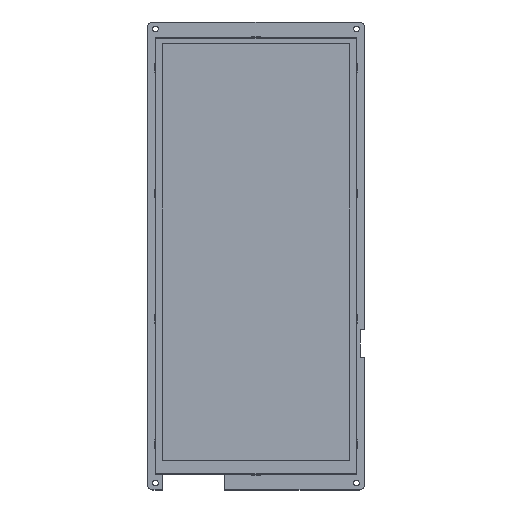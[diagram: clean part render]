
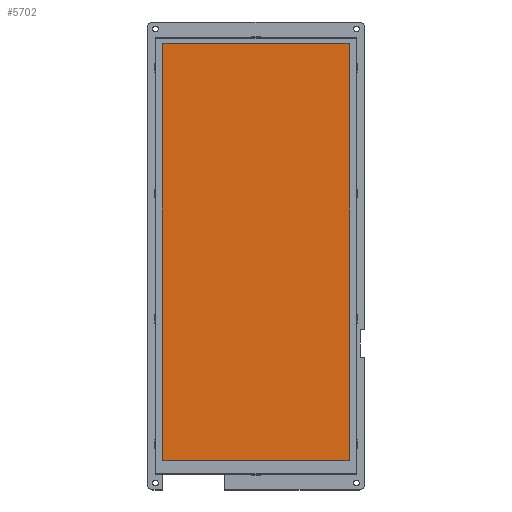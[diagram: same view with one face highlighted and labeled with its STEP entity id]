
A CAD part, top view. The second image highlights one B-rep face of the part: STEP entity #5702.
In plain terms, the highlighted planar face has unit normal (0, 0, 1).
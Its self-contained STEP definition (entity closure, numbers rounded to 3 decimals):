
#1612=DIRECTION('',(0.,-1.,0.));
#1613=VECTOR('',#1612,240.4);
#1614=CARTESIAN_POINT('',(-54.2,122.45,2.425));
#1615=LINE('',#1614,#1613);
#1616=DIRECTION('',(-1.,0.,0.));
#1617=VECTOR('',#1616,108.4);
#1618=CARTESIAN_POINT('',(54.2,122.45,2.425));
#1619=LINE('',#1618,#1617);
#1620=DIRECTION('',(0.,1.,0.));
#1621=VECTOR('',#1620,240.4);
#1622=CARTESIAN_POINT('',(54.2,-117.95,2.425));
#1623=LINE('',#1622,#1621);
#1624=DIRECTION('',(1.,0.,0.));
#1625=VECTOR('',#1624,108.4);
#1626=CARTESIAN_POINT('',(-54.2,-117.95,2.425));
#1627=LINE('',#1626,#1625);
#3034=CARTESIAN_POINT('',(-54.2,122.45,2.425));
#3035=CARTESIAN_POINT('',(-54.2,-117.95,2.425));
#3036=VERTEX_POINT('',#3034);
#3037=VERTEX_POINT('',#3035);
#3038=CARTESIAN_POINT('',(54.2,-117.95,2.425));
#3039=VERTEX_POINT('',#3038);
#3040=CARTESIAN_POINT('',(54.2,122.45,2.425));
#3041=VERTEX_POINT('',#3040);
#5691=CARTESIAN_POINT('',(57.7,-125.55,2.425));
#5692=DIRECTION('',(0.,0.,1.));
#5693=DIRECTION('',(1.,0.,0.));
#5694=AXIS2_PLACEMENT_3D('',#5691,#5692,#5693);
#5695=PLANE('',#5694);
#5696=ORIENTED_EDGE('',*,*,#5615,.F.);
#5697=ORIENTED_EDGE('',*,*,#5637,.F.);
#5698=ORIENTED_EDGE('',*,*,#5658,.F.);
#5699=ORIENTED_EDGE('',*,*,#5678,.F.);
#5700=EDGE_LOOP('',(#5696,#5697,#5698,#5699));
#5701=FACE_OUTER_BOUND('',#5700,.F.);
#5615=EDGE_CURVE('',#3036,#3037,#1615,.T.);
#5637=EDGE_CURVE('',#3041,#3036,#1619,.T.);
#5658=EDGE_CURVE('',#3039,#3041,#1623,.T.);
#5678=EDGE_CURVE('',#3037,#3039,#1627,.T.);
#5702=ADVANCED_FACE('',(#5701),#5695,.T.);
